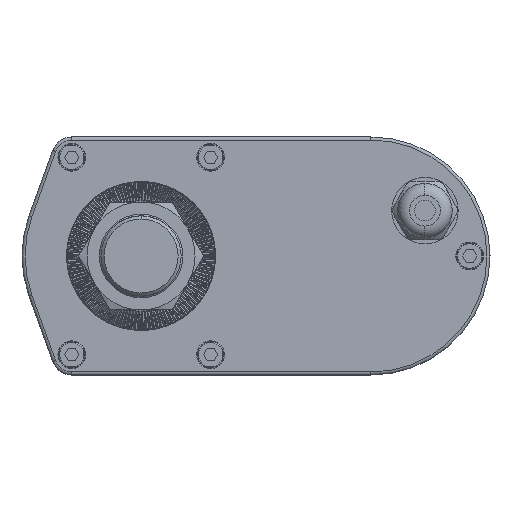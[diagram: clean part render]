
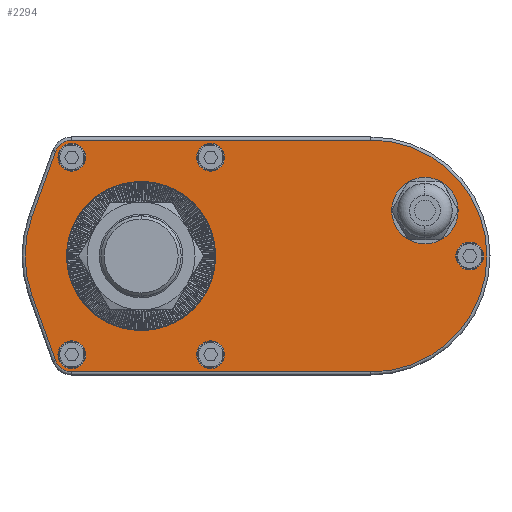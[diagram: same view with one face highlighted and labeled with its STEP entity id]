
A CAD part, left-side view. The second image highlights one B-rep face of the part: STEP entity #2294.
In plain terms, the highlighted planar face has unit normal (-1, 0, 0).
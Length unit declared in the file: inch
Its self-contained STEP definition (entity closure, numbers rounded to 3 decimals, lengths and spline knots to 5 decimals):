
#2294=ADVANCED_FACE('',(#5985,#5986,#5987,#5988,#5989,#5990,#5991,#5992),#5993,.F.);
#5985=FACE_BOUND('',#11195,.T.);
#5986=FACE_BOUND('',#11196,.T.);
#5987=FACE_BOUND('',#11197,.T.);
#5988=FACE_BOUND('',#11198,.T.);
#5989=FACE_BOUND('',#11199,.T.);
#5990=FACE_BOUND('',#11200,.T.);
#5991=FACE_BOUND('',#11201,.T.);
#5992=FACE_OUTER_BOUND('',#11202,.T.);
#5993=PLANE('',#11203);
#11195=EDGE_LOOP('',(#18567,#18568));
#11196=EDGE_LOOP('',(#18569,#18570));
#11197=EDGE_LOOP('',(#18571,#18572));
#11198=EDGE_LOOP('',(#18573,#18574));
#11199=EDGE_LOOP('',(#18575,#18576));
#11200=EDGE_LOOP('',(#18577,#18578));
#11201=EDGE_LOOP('',(#18579,#18580));
#11202=EDGE_LOOP('',(#18581,#18582,#18583,#18584,#18585,#18586,#18587,#18588));
#11203=AXIS2_PLACEMENT_3D('',#18589,#18590,#18591);
#18567=ORIENTED_EDGE('',*,*,#32392,.F.);
#18568=ORIENTED_EDGE('',*,*,#32393,.F.);
#18569=ORIENTED_EDGE('',*,*,#32394,.F.);
#18570=ORIENTED_EDGE('',*,*,#31071,.F.);
#18571=ORIENTED_EDGE('',*,*,#32395,.T.);
#18572=ORIENTED_EDGE('',*,*,#32396,.T.);
#18573=ORIENTED_EDGE('',*,*,#32397,.T.);
#18574=ORIENTED_EDGE('',*,*,#32398,.T.);
#18575=ORIENTED_EDGE('',*,*,#32399,.T.);
#18576=ORIENTED_EDGE('',*,*,#32400,.T.);
#18577=ORIENTED_EDGE('',*,*,#31482,.T.);
#18578=ORIENTED_EDGE('',*,*,#32401,.T.);
#18579=ORIENTED_EDGE('',*,*,#32402,.T.);
#18580=ORIENTED_EDGE('',*,*,#32403,.T.);
#18581=ORIENTED_EDGE('',*,*,#32404,.T.);
#18582=ORIENTED_EDGE('',*,*,#31745,.T.);
#18583=ORIENTED_EDGE('',*,*,#32405,.T.);
#18584=ORIENTED_EDGE('',*,*,#32406,.T.);
#18585=ORIENTED_EDGE('',*,*,#32407,.T.);
#18586=ORIENTED_EDGE('',*,*,#32408,.T.);
#18587=ORIENTED_EDGE('',*,*,#31301,.T.);
#18588=ORIENTED_EDGE('',*,*,#32409,.T.);
#18589=CARTESIAN_POINT('',(0.0,-2.93307,0.0));
#18590=DIRECTION('',(1.0,0.0,0.0));
#18591=DIRECTION('',(0.0,1.0,-0.0));
#31071=EDGE_CURVE('',#37184,#36709,#37186,.F.);
#31301=EDGE_CURVE('',#37571,#37576,#37578,.F.);
#31482=EDGE_CURVE('',#37878,#37882,#37884,.T.);
#31745=EDGE_CURVE('',#38324,#38322,#38325,.F.);
#32392=EDGE_CURVE('',#39391,#39392,#39393,.F.);
#32393=EDGE_CURVE('',#39392,#39391,#39394,.F.);
#32394=EDGE_CURVE('',#36709,#37184,#39395,.F.);
#32395=EDGE_CURVE('',#39396,#39397,#39398,.T.);
#32396=EDGE_CURVE('',#39397,#39396,#39399,.T.);
#32397=EDGE_CURVE('',#39400,#39401,#39402,.T.);
#32398=EDGE_CURVE('',#39401,#39400,#39403,.T.);
#32399=EDGE_CURVE('',#39404,#39405,#39406,.T.);
#32400=EDGE_CURVE('',#39405,#39404,#39407,.T.);
#32401=EDGE_CURVE('',#37882,#37878,#39408,.T.);
#32402=EDGE_CURVE('',#39409,#39410,#39411,.T.);
#32403=EDGE_CURVE('',#39410,#39409,#39412,.T.);
#32404=EDGE_CURVE('',#39413,#38324,#39414,.F.);
#32405=EDGE_CURVE('',#38322,#39415,#39416,.F.);
#32406=EDGE_CURVE('',#39415,#39417,#39418,.F.);
#32407=EDGE_CURVE('',#39417,#39419,#39420,.F.);
#32408=EDGE_CURVE('',#39419,#37571,#39421,.F.);
#32409=EDGE_CURVE('',#37576,#39413,#39422,.F.);
#36709=VERTEX_POINT('',#45002);
#37184=VERTEX_POINT('',#45478);
#37186=CIRCLE('',#45481,0.94882);
#37571=VERTEX_POINT('',#46018);
#37576=VERTEX_POINT('',#46023);
#37578=CIRCLE('',#46025,0.22047);
#37878=VERTEX_POINT('',#46440);
#37882=VERTEX_POINT('',#46445);
#37884=CIRCLE('',#46448,0.17717);
#38322=VERTEX_POINT('',#47084);
#38324=VERTEX_POINT('',#47086);
#38325=LINE('',#47087,#47088);
#39391=VERTEX_POINT('',#48516);
#39392=VERTEX_POINT('',#48517);
#39393=CIRCLE('',#48518,0.3248);
#39394=CIRCLE('',#48519,0.3248);
#39395=CIRCLE('',#48520,0.94882);
#39396=VERTEX_POINT('',#48521);
#39397=VERTEX_POINT('',#48522);
#39398=CIRCLE('',#48523,0.17717);
#39399=CIRCLE('',#48524,0.17717);
#39400=VERTEX_POINT('',#48525);
#39401=VERTEX_POINT('',#48526);
#39402=CIRCLE('',#48527,0.17717);
#39403=CIRCLE('',#48528,0.17717);
#39404=VERTEX_POINT('',#48529);
#39405=VERTEX_POINT('',#48530);
#39406=CIRCLE('',#48531,0.17717);
#39407=CIRCLE('',#48532,0.17717);
#39408=CIRCLE('',#48533,0.17717);
#39409=VERTEX_POINT('',#48534);
#39410=VERTEX_POINT('',#48535);
#39411=CIRCLE('',#48536,0.17717);
#39412=CIRCLE('',#48537,0.17717);
#39413=VERTEX_POINT('',#48538);
#39414=CIRCLE('',#48539,1.48031);
#39415=VERTEX_POINT('',#48540);
#39416=CIRCLE('',#48541,0.22047);
#39417=VERTEX_POINT('',#48542);
#39418=LINE('',#48543,#48544);
#39419=VERTEX_POINT('',#48545);
#39420=CIRCLE('',#48546,1.48031);
#39421=LINE('',#48547,#48548);
#39422=LINE('',#48549,#48550);
#45002=CARTESIAN_POINT('',(0.0,0.0,-0.94882));
#45478=CARTESIAN_POINT('',(0.0,0.,0.94882));
#45481=AXIS2_PLACEMENT_3D('',#56620,#56621,#56622);
#46018=CARTESIAN_POINT('',(0.0,0.88425,1.48031));
#46023=CARTESIAN_POINT('',(0.0,1.0916,1.33479));
#46025=AXIS2_PLACEMENT_3D('',#56876,#56877,#56878);
#46440=CARTESIAN_POINT('',(0.0,-0.8874,1.08268));
#46445=CARTESIAN_POINT('',(0.0,-0.8874,1.43701));
#46448=AXIS2_PLACEMENT_3D('',#57073,#57074,#57075);
#47084=CARTESIAN_POINT('',(0.0,1.0916,-1.33479));
#47086=CARTESIAN_POINT('',(0.0,1.39217,-0.50319));
#47087=CARTESIAN_POINT('',(0.0,1.0916,-1.33479));
#47088=VECTOR('',#57356,39.37008);
#48516=CARTESIAN_POINT('',(0.0,-3.62205,0.25394));
#48517=CARTESIAN_POINT('',(0.0,-3.62205,0.90354));
#48518=AXIS2_PLACEMENT_3D('',#58252,#58253,#58254);
#48519=AXIS2_PLACEMENT_3D('',#58255,#58256,#58257);
#48520=AXIS2_PLACEMENT_3D('',#58258,#58259,#58260);
#48521=CARTESIAN_POINT('',(0.0,-4.19449,-0.17717));
#48522=CARTESIAN_POINT('',(0.0,-4.19449,0.17717));
#48523=AXIS2_PLACEMENT_3D('',#58261,#58262,#58263);
#48524=AXIS2_PLACEMENT_3D('',#58264,#58265,#58266);
#48525=CARTESIAN_POINT('',(0.0,0.88425,1.08268));
#48526=CARTESIAN_POINT('',(0.0,0.88425,1.43701));
#48527=AXIS2_PLACEMENT_3D('',#58267,#58268,#58269);
#48528=AXIS2_PLACEMENT_3D('',#58270,#58271,#58272);
#48529=CARTESIAN_POINT('',(0.0,-0.8874,-1.43701));
#48530=CARTESIAN_POINT('',(0.0,-0.8874,-1.08268));
#48531=AXIS2_PLACEMENT_3D('',#58273,#58274,#58275);
#48532=AXIS2_PLACEMENT_3D('',#58276,#58277,#58278);
#48533=AXIS2_PLACEMENT_3D('',#58279,#58280,#58281);
#48534=CARTESIAN_POINT('',(0.0,0.88425,-1.43701));
#48535=CARTESIAN_POINT('',(0.0,0.88425,-1.08268));
#48536=AXIS2_PLACEMENT_3D('',#58282,#58283,#58284);
#48537=AXIS2_PLACEMENT_3D('',#58285,#58286,#58287);
#48538=CARTESIAN_POINT('',(0.0,1.39217,0.50319));
#48539=AXIS2_PLACEMENT_3D('',#58288,#58289,#58290);
#48540=CARTESIAN_POINT('',(0.0,0.88425,-1.48031));
#48541=AXIS2_PLACEMENT_3D('',#58291,#58292,#58293);
#48542=CARTESIAN_POINT('',(0.0,-2.93307,-1.48031));
#48543=CARTESIAN_POINT('',(0.0,-2.93307,-1.48031));
#48544=VECTOR('',#58294,39.37008);
#48545=CARTESIAN_POINT('',(0.0,-2.93307,1.48031));
#48546=AXIS2_PLACEMENT_3D('',#58295,#58296,#58297);
#48547=CARTESIAN_POINT('',(0.0,0.88425,1.48031));
#48548=VECTOR('',#58298,39.37008);
#48549=CARTESIAN_POINT('',(0.0,1.39217,0.50319));
#48550=VECTOR('',#58299,39.37008);
#56620=CARTESIAN_POINT('',(0.0,0.0,0.0));
#56621=DIRECTION('',(1.0,0.0,0.0));
#56622=DIRECTION('',(0.0,0.0,-1.0));
#56876=CARTESIAN_POINT('',(0.0,0.88425,1.25984));
#56877=DIRECTION('',(1.0,0.0,0.0));
#56878=DIRECTION('',(0.0,0.0,-1.0));
#57073=CARTESIAN_POINT('',(0.0,-0.8874,1.25984));
#57074=DIRECTION('',(1.0,0.0,0.0));
#57075=DIRECTION('',(0.0,0.0,-1.0));
#57356=DIRECTION('',(0.0,0.34,0.94));
#58252=CARTESIAN_POINT('',(0.0,-3.62205,0.57874));
#58253=DIRECTION('',(1.0,0.0,0.0));
#58254=DIRECTION('',(0.0,0.0,-1.0));
#58255=CARTESIAN_POINT('',(0.0,-3.62205,0.57874));
#58256=DIRECTION('',(1.0,0.0,0.0));
#58257=DIRECTION('',(0.0,0.0,-1.0));
#58258=CARTESIAN_POINT('',(0.0,0.0,0.0));
#58259=DIRECTION('',(1.0,0.0,0.0));
#58260=DIRECTION('',(0.0,0.0,-1.0));
#58261=CARTESIAN_POINT('',(0.0,-4.19449,0.0));
#58262=DIRECTION('',(1.0,0.0,0.0));
#58263=DIRECTION('',(0.0,0.0,-1.0));
#58264=CARTESIAN_POINT('',(0.0,-4.19449,0.0));
#58265=DIRECTION('',(1.0,0.0,0.0));
#58266=DIRECTION('',(0.0,0.0,-1.0));
#58267=CARTESIAN_POINT('',(0.0,0.88425,1.25984));
#58268=DIRECTION('',(1.0,0.0,0.0));
#58269=DIRECTION('',(0.0,0.0,-1.0));
#58270=CARTESIAN_POINT('',(0.0,0.88425,1.25984));
#58271=DIRECTION('',(1.0,0.0,0.0));
#58272=DIRECTION('',(0.0,0.0,-1.0));
#58273=CARTESIAN_POINT('',(0.0,-0.8874,-1.25984));
#58274=DIRECTION('',(1.0,0.0,0.0));
#58275=DIRECTION('',(0.0,0.0,-1.0));
#58276=CARTESIAN_POINT('',(0.0,-0.8874,-1.25984));
#58277=DIRECTION('',(1.0,0.0,0.0));
#58278=DIRECTION('',(0.0,0.0,-1.0));
#58279=CARTESIAN_POINT('',(0.0,-0.8874,1.25984));
#58280=DIRECTION('',(1.0,0.0,0.0));
#58281=DIRECTION('',(0.0,0.0,-1.0));
#58282=CARTESIAN_POINT('',(0.0,0.88425,-1.25984));
#58283=DIRECTION('',(1.0,0.0,0.0));
#58284=DIRECTION('',(0.0,0.0,-1.0));
#58285=CARTESIAN_POINT('',(0.0,0.88425,-1.25984));
#58286=DIRECTION('',(1.0,0.0,0.0));
#58287=DIRECTION('',(0.0,0.0,-1.0));
#58288=CARTESIAN_POINT('',(0.0,0.,0.0));
#58289=DIRECTION('',(1.0,0.0,0.0));
#58290=DIRECTION('',(0.0,0.0,-1.0));
#58291=CARTESIAN_POINT('',(0.0,0.88425,-1.25984));
#58292=DIRECTION('',(1.0,0.0,0.0));
#58293=DIRECTION('',(0.0,0.0,-1.0));
#58294=DIRECTION('',(0.0,1.0,0.0));
#58295=CARTESIAN_POINT('',(0.0,-2.93307,0.0));
#58296=DIRECTION('',(1.0,0.0,0.0));
#58297=DIRECTION('',(0.0,0.0,-1.0));
#58298=DIRECTION('',(0.0,-1.0,0.0));
#58299=DIRECTION('',(0.0,-0.34,0.94));
